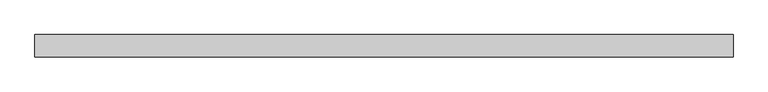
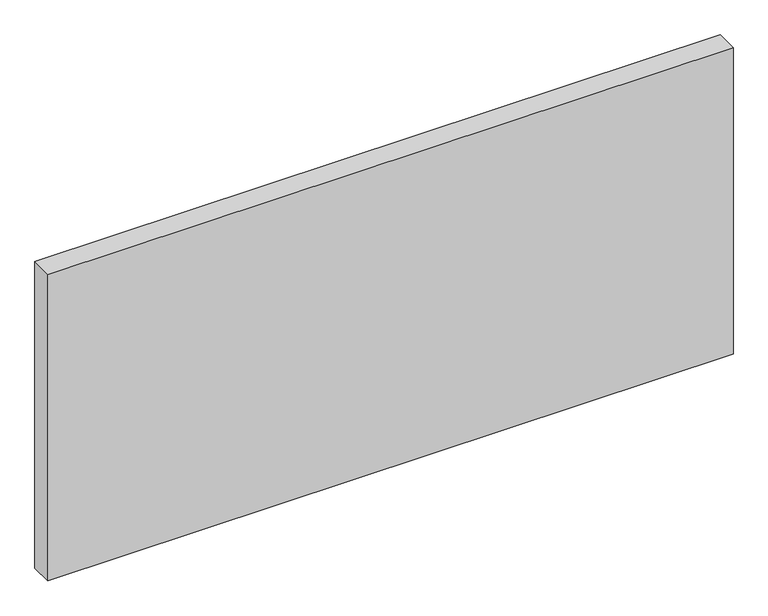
"""IFC4 building model written with IfcOpenShell, lengths in millimetres: proxy geometry, FOUNDATION^WORKSURFACES_FIXED RETURN TOP-46.5x22."""

from ifc_helpers import new_model, si_unit, frame, origin, place, context, project, spatial, polyline, outline, extrude, source, transform, mapped, element, save


def generic_models_01de08b3(model_context):
    return source(origin(), model_context, "Body", "SweptSolid", [
        extrude(outline(polyline([(1181.1, 0.0), (0.0, 0.0), (0.0, 38.1), (1181.1, 38.1), (1181.1, 0.0)])), frame((0.0, 0.0, -558.8), z_axis=(0.0, 0.0, 1.0), x_axis=(1.0, 0.0, 0.0)), (0.0, 0.0, 1.0), 558.8),
    ])


if __name__ == "__main__":
    model = new_model("IFC4")
    model_context = context("Model", 3, world=origin())
    ifc_project = project(units=[si_unit("LENGTHUNIT", "METRE", prefix="MILLI")], contexts=[model_context])
    site = spatial("IfcSite", under=ifc_project)
    building = spatial("IfcBuilding", under=site)
    placement = place(None, origin())
    generic_models_shape = generic_models_01de08b3(model_context)
    element("IfcBuildingElementProxy", 1, Name="FOUNDATION^WORKSURFACES_FIXED RETURN TOP-46.5x22", ObjectType="FOUNDATION^WORKSURFACES_FIXED RETURN TOP-46.5x22", at=placement, inside=building, context=model_context, shape_type="MappedRepresentation", body=[
        mapped(generic_models_shape, transform((0.0, 0.0, 0.0), x_axis=(1.0, 0.0, 0.0), y_axis=(0.0, 1.0, 0.0), z_axis=(0.0, 0.0, 1.0))),
    ])
    save(model, "model.ifc")
